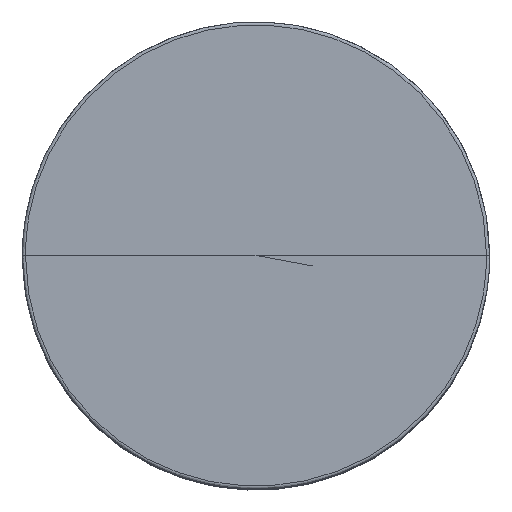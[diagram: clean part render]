
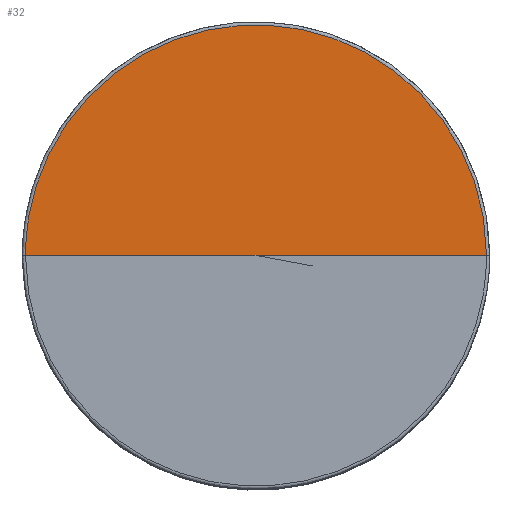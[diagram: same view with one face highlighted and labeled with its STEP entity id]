
A CAD part, top view. The second image highlights one B-rep face of the part: STEP entity #32.
In plain terms, the highlighted free-form (B-spline) face has degree [2, 1] with [5, 2] control points.
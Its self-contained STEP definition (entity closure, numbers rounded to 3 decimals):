
#32=ADVANCED_FACE('',(#66),#432,.T.);
#66=FACE_OUTER_BOUND('',#100,.T.);
#100=EDGE_LOOP('',(#183,#184,#185));
#183=ORIENTED_EDGE('',*,*,#283,.T.);
#184=ORIENTED_EDGE('',*,*,#250,.T.);
#185=ORIENTED_EDGE('',*,*,#282,.F.);
#250=EDGE_CURVE('',#383,#382,#366,.T.);
#282=EDGE_CURVE('',#399,#382,#373,.T.);
#283=EDGE_CURVE('',#399,#383,#340,.T.);
#340=(
BOUNDED_CURVE()
B_SPLINE_CURVE(2,(#1262,#1263,#1264,#1265,#1266),.UNSPECIFIED.,.F.,.F.)
B_SPLINE_CURVE_WITH_KNOTS((3,2,3),(549.779,824.668,1099.557),
 .UNSPECIFIED.)
CURVE()
GEOMETRIC_REPRESENTATION_ITEM()
RATIONAL_B_SPLINE_CURVE((1.,0.707,1.,0.707,1.))
REPRESENTATION_ITEM('')
);
#366=B_SPLINE_CURVE_WITH_KNOTS('',1,(#1121,#1122),.UNSPECIFIED.,.F.,.F.,
(2,2),(701.753,874.42),.UNSPECIFIED.);
#373=B_SPLINE_CURVE_WITH_KNOTS('',1,(#1260,#1261),.UNSPECIFIED.,.F.,.F.,
(2,2),(701.753,874.42),.UNSPECIFIED.);
#382=VERTEX_POINT('',#1086);
#383=VERTEX_POINT('',#1087);
#399=VERTEX_POINT('',#1103);
#432=(
BOUNDED_SURFACE()
B_SPLINE_SURFACE(2,1,((#780,#781),(#782,#783),(#784,#785),(#786,#787),(#788,
#789)),.UNSPECIFIED.,.F.,.F.,.F.)
B_SPLINE_SURFACE_WITH_KNOTS((3,2,3),(2,2),(549.779,824.668,
1099.557),(701.753,874.42),.UNSPECIFIED.)
GEOMETRIC_REPRESENTATION_ITEM()
RATIONAL_B_SPLINE_SURFACE(((1.,1.),(0.707,0.707),
(1.,1.),(0.707,0.707),(1.,1.)))
REPRESENTATION_ITEM('')
SURFACE()
);
#780=CARTESIAN_POINT('',(172.667,0.,430.));
#781=CARTESIAN_POINT('',(0.,0.,430.));
#782=CARTESIAN_POINT('',(172.667,172.667,430.));
#783=CARTESIAN_POINT('',(0.,0.,430.));
#784=CARTESIAN_POINT('',(0.,172.667,430.));
#785=CARTESIAN_POINT('',(0.,0.,430.));
#786=CARTESIAN_POINT('',(-172.667,172.667,430.));
#787=CARTESIAN_POINT('',(0.,0.,430.));
#788=CARTESIAN_POINT('',(-172.667,0.,430.));
#789=CARTESIAN_POINT('',(0.,0.,430.));
#1086=CARTESIAN_POINT('',(0.,0.,430.));
#1087=CARTESIAN_POINT('',(-172.667,0.,430.));
#1103=CARTESIAN_POINT('',(172.667,0.,430.));
#1121=CARTESIAN_POINT('',(-172.667,0.,430.));
#1122=CARTESIAN_POINT('',(0.,0.,430.));
#1260=CARTESIAN_POINT('',(172.667,0.,430.));
#1261=CARTESIAN_POINT('',(0.,0.,430.));
#1262=CARTESIAN_POINT('',(172.667,0.,430.));
#1263=CARTESIAN_POINT('',(172.667,172.667,430.));
#1264=CARTESIAN_POINT('',(0.,172.667,430.));
#1265=CARTESIAN_POINT('',(-172.667,172.667,430.));
#1266=CARTESIAN_POINT('',(-172.667,0.,430.));
